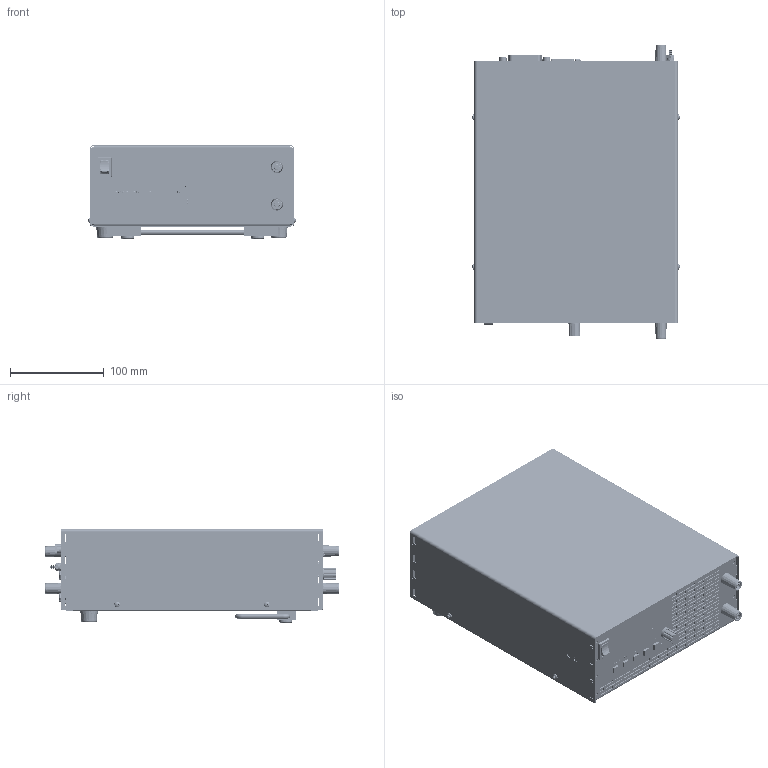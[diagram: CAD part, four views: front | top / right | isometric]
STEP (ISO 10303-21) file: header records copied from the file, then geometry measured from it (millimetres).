
FILE_DESCRIPTION(('STEP AP214'),'1');
FILE_NAME('PLA_M7_H19Z_2HE_SBU4_32_SBU4_32_3D_02_bak.step','2024-08-20T12:32:14',(' '),(' '),'Spatial InterOp 3D',' ',' ');
FILE_SCHEMA(('AUTOMOTIVE_DESIGN { 1 0 10303 214 1 1 1 1 }'));
Length unit declared in the file: millimetre
Products named in the file (8): PLA_M7_H19Z_2HE_SBU4_32_SBU4_32_3D_02_bak; 1708_PLA Bodenplatte_3D_03; DIN 7985-AxM3 X 0.5x4; *U66; *U67; *U68; *U69; AutoCreatedBlock_1DD
Assembly tree (13 placements, depth 2):
  PLA_M7_H19Z_2HE_SBU4_32_SBU4_32_3D_02_bak
    1708_PLA Bodenplatte_3D_03
    DIN 7985-AxM3 X 0.5x4  x4
    *U66
    *U67  x2
    *U68  x2
    *U69  x2
    AutoCreatedBlock_1DD
Bounding box: 221.56 x 313.5 x 100.18 mm (x, y, z)
Volume: 4965031.2 mm3; surface area: 672182.8 mm2
Topology: 94 solids, 97 shells, 7919 faces, 21049 edges, 13593 vertices
Faces by surface type: plane 4030, cylinder 1733, cone 1662, bspline 238, torus 196, sphere 58, extrusion 2
Entity records: 316019 total; most frequent: CARTESIAN_POINT 58610, DIRECTION 40295, ORIENTED_EDGE 40178, EDGE_CURVE 20089, VECTOR 13633, LINE 13631, AXIS2_PLACEMENT_3D 13331, VERTEX_POINT 12692
